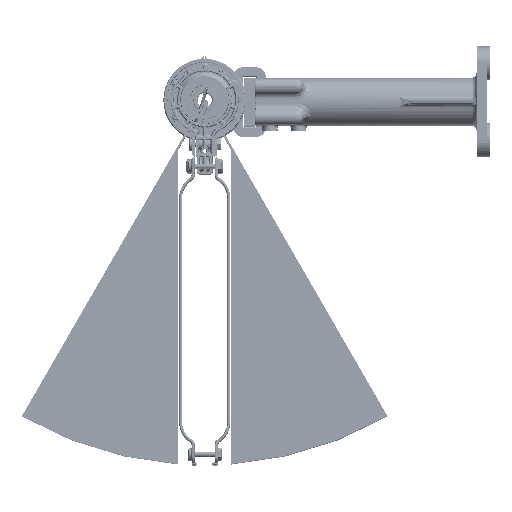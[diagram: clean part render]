
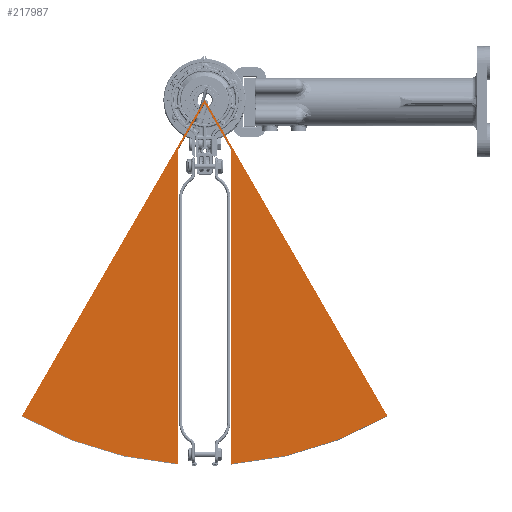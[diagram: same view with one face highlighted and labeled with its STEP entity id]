
A CAD part, top view. The second image highlights one B-rep face of the part: STEP entity #217987.
In plain terms, the highlighted planar face has unit normal (0, 0, 1) as drawn and (0, 1, 0) by its records, which use the part's own axes.
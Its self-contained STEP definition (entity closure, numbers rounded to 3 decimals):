
#4794 = DIRECTION ( 'NONE',  ( 0., 1., 0. ) ) ;
#5571 = VERTEX_POINT ( 'NONE', #12062 ) ;
#6890 = VECTOR ( 'NONE', #198907, 1000. ) ;
#8053 = LINE ( 'NONE', #78704, #82556 ) ;
#9124 = CIRCLE ( 'NONE', #87012, 380. ) ;
#9367 = PLANE ( 'NONE',  #31737 ) ;
#12062 = CARTESIAN_POINT ( 'NONE',  ( -379.004, 385., -27.5 ) ) ;
#16705 = ORIENTED_EDGE ( 'NONE', *, *, #68018, .F. ) ;
#23599 = CARTESIAN_POINT ( 'NONE',  ( -51.631, 385., 27.5 ) ) ;
#26355 = DIRECTION ( 'NONE',  ( -0.866, 0., 0.5 ) ) ;
#28223 = ORIENTED_EDGE ( 'NONE', *, *, #239024, .T. ) ;
#31737 = AXIS2_PLACEMENT_3D ( 'NONE', #194454, #153200, #193250 ) ;
#38146 = VERTEX_POINT ( 'NONE', #87749 ) ;
#43359 = CARTESIAN_POINT ( 'NONE',  ( -1., 385., 1.732 ) ) ;
#47142 = VECTOR ( 'NONE', #48259, 1000. ) ;
#48259 = DIRECTION ( 'NONE',  ( 1., 0., 0. ) ) ;
#49212 = VERTEX_POINT ( 'NONE', #60150 ) ;
#55441 = CARTESIAN_POINT ( 'NONE',  ( -51.631, 385., -27.5 ) ) ;
#58947 = DIRECTION ( 'NONE',  ( 1., 0., 0. ) ) ;
#59597 = CARTESIAN_POINT ( 'NONE',  ( 0., 385., 0. ) ) ;
#60150 = CARTESIAN_POINT ( 'NONE',  ( -4., 385., 0. ) ) ;
#60851 = CARTESIAN_POINT ( 'NONE',  ( 0., 385., 0. ) ) ;
#68018 = EDGE_CURVE ( 'NONE', #94671, #196065, #8053, .T. ) ;
#77199 = LINE ( 'NONE', #151598, #201958 ) ;
#77911 = EDGE_CURVE ( 'NONE', #5571, #221692, #143295, .T. ) ;
#78704 = CARTESIAN_POINT ( 'NONE',  ( 0., 385., 0. ) ) ;
#80385 = ORIENTED_EDGE ( 'NONE', *, *, #120321, .T. ) ;
#82556 = VECTOR ( 'NONE', #26355, 1000. ) ;
#83626 = FACE_OUTER_BOUND ( 'NONE', #126140, .T. ) ;
#85602 = ORIENTED_EDGE ( 'NONE', *, *, #172209, .F. ) ;
#87012 = AXIS2_PLACEMENT_3D ( 'NONE', #59597, #4794, #206970 ) ;
#87749 = CARTESIAN_POINT ( 'NONE',  ( -379.004, 385., 27.5 ) ) ;
#94671 = VERTEX_POINT ( 'NONE', #233573 ) ;
#99801 = ORIENTED_EDGE ( 'NONE', *, *, #124840, .F. ) ;
#100259 = CARTESIAN_POINT ( 'NONE',  ( -329.09, 385., -190. ) ) ;
#101632 = CARTESIAN_POINT ( 'NONE',  ( 0., 385., 0. ) ) ;
#108840 = VERTEX_POINT ( 'NONE', #100259 ) ;
#114100 = LINE ( 'NONE', #43359, #186186 ) ;
#116924 = DIRECTION ( 'NONE',  ( 0., 1., 0. ) ) ;
#120087 = DIRECTION ( 'NONE',  ( -0.866, 0., 0.5 ) ) ;
#120321 = EDGE_CURVE ( 'NONE', #221692, #49212, #114100, .T. ) ;
#120497 = EDGE_CURVE ( 'NONE', #49212, #210462, #232013, .T. ) ;
#124840 = EDGE_CURVE ( 'NONE', #108840, #94671, #236634, .T. ) ;
#126140 = EDGE_LOOP ( 'NONE', ( #85602, #28223, #16705, #99801, #199300, #203132, #80385, #201489 ) ) ;
#138324 = CARTESIAN_POINT ( 'NONE',  ( -1., 385., -1.732 ) ) ;
#143295 = LINE ( 'NONE', #213900, #47142 ) ;
#149516 = CARTESIAN_POINT ( 'NONE',  ( -329.09, 385., 190. ) ) ;
#151598 = CARTESIAN_POINT ( 'NONE',  ( 0., 385., 27.5 ) ) ;
#153200 = DIRECTION ( 'NONE',  ( 0., 1., 0. ) ) ;
#172209 = EDGE_CURVE ( 'NONE', #38146, #210462, #77199, .T. ) ;
#186186 = VECTOR ( 'NONE', #190738, 1000. ) ;
#189202 = EDGE_CURVE ( 'NONE', #108840, #5571, #229298, .T. ) ;
#190738 = DIRECTION ( 'NONE',  ( 0.866, 0., 0.5 ) ) ;
#191151 = DIRECTION ( 'NONE',  ( 0., 0., 1. ) ) ;
#193250 = DIRECTION ( 'NONE',  ( 0., 0., 1. ) ) ;
#194454 = CARTESIAN_POINT ( 'NONE',  ( 0., 385., 0. ) ) ;
#196065 = VERTEX_POINT ( 'NONE', #149516 ) ;
#197768 = VECTOR ( 'NONE', #120087, 1000. ) ;
#198907 = DIRECTION ( 'NONE',  ( 0.866, 0., 0.5 ) ) ;
#199300 = ORIENTED_EDGE ( 'NONE', *, *, #189202, .T. ) ;
#201489 = ORIENTED_EDGE ( 'NONE', *, *, #120497, .T. ) ;
#201958 = VECTOR ( 'NONE', #58947, 1000. ) ;
#203132 = ORIENTED_EDGE ( 'NONE', *, *, #77911, .T. ) ;
#206970 = DIRECTION ( 'NONE',  ( 0., 0., 1. ) ) ;
#210462 = VERTEX_POINT ( 'NONE', #23599 ) ;
#213900 = CARTESIAN_POINT ( 'NONE',  ( 0., 385., -27.5 ) ) ;
#217633 = AXIS2_PLACEMENT_3D ( 'NONE', #60851, #116924, #191151 ) ;
#217987 = ADVANCED_FACE ( 'NONE', ( #83626 ), #9367, .T. ) ;
#221692 = VERTEX_POINT ( 'NONE', #55441 ) ;
#229298 = CIRCLE ( 'NONE', #217633, 380. ) ;
#232013 = LINE ( 'NONE', #138324, #197768 ) ;
#233573 = CARTESIAN_POINT ( 'NONE',  ( 0., 385., 0. ) ) ;
#236634 = LINE ( 'NONE', #101632, #6890 ) ;
#239024 = EDGE_CURVE ( 'NONE', #38146, #196065, #9124, .T. ) ;
